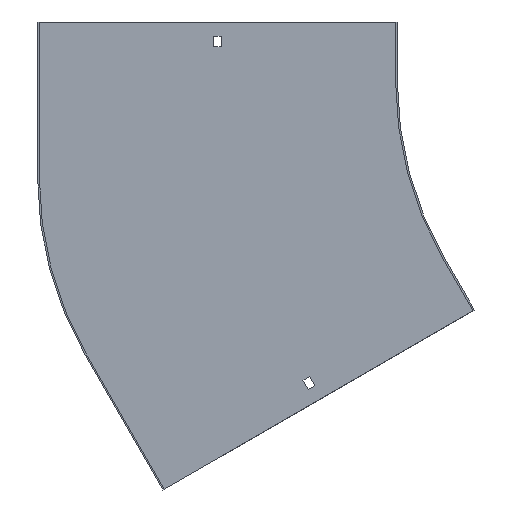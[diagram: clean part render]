
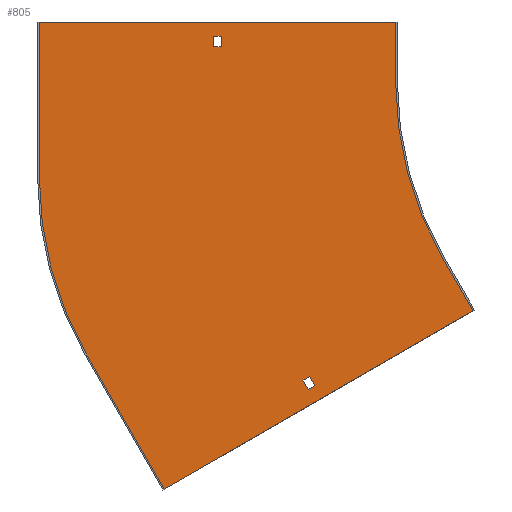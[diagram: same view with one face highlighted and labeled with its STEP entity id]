
A CAD part, front view. The second image highlights one B-rep face of the part: STEP entity #805.
In plain terms, the highlighted planar face has unit normal (0, -1, 0).
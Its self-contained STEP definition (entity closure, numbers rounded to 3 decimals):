
#1 = ORIENTED_EDGE ( 'NONE', *, *, #244, .F. ) ;
#2 = VERTEX_POINT ( 'NONE', #278 ) ;
#7 = LINE ( 'NONE', #273, #468 ) ;
#9 = DIRECTION ( 'NONE',  ( 0.5, 0., -0.866 ) ) ;
#14 = ORIENTED_EDGE ( 'NONE', *, *, #239, .T. ) ;
#19 = ORIENTED_EDGE ( 'NONE', *, *, #394, .F. ) ;
#23 = DIRECTION ( 'NONE',  ( 0., 0., -1. ) ) ;
#25 = DIRECTION ( 'NONE',  ( 0., 0., -1. ) ) ;
#32 = CIRCLE ( 'NONE', #516, 300. ) ;
#37 = CARTESIAN_POINT ( 'NONE',  ( -600., -1.5, -80.385 ) ) ;
#39 = DIRECTION ( 'NONE',  ( 0., 0., -1. ) ) ;
#45 = EDGE_CURVE ( 'NONE', #469, #558, #497, .T. ) ;
#54 = ORIENTED_EDGE ( 'NONE', *, *, #327, .T. ) ;
#59 = CARTESIAN_POINT ( 'NONE',  ( -446.75, -1.5, 29. ) ) ;
#62 = ORIENTED_EDGE ( 'NONE', *, *, #263, .F. ) ;
#68 = ORIENTED_EDGE ( 'NONE', *, *, #727, .F. ) ;
#79 = EDGE_LOOP ( 'NONE', ( #407, #62, #19, #450 ) ) ;
#80 = VERTEX_POINT ( 'NONE', #478 ) ;
#86 = VECTOR ( 'NONE', #88, 1000. ) ;
#87 = VERTEX_POINT ( 'NONE', #753 ) ;
#88 = DIRECTION ( 'NONE',  ( 1., 0., 0. ) ) ;
#90 = CARTESIAN_POINT ( 'NONE',  ( -233.509, -1.5, -192.551 ) ) ;
#95 = VERTEX_POINT ( 'NONE', #634 ) ;
#98 = DIRECTION ( 'NONE',  ( -0.5, 0., 0.866 ) ) ;
#106 = PLANE ( 'NONE',  #665 ) ;
#144 = LINE ( 'NONE', #342, #542 ) ;
#149 = LINE ( 'NONE', #354, #501 ) ;
#160 = DIRECTION ( 'NONE',  ( 0.866, 0., 0.5 ) ) ;
#165 = DIRECTION ( 'NONE',  ( 1., 0., 0. ) ) ;
#166 = DIRECTION ( 'NONE',  ( -0.866, 0., -0.5 ) ) ;
#170 = FACE_BOUND ( 'NONE', #79, .T. ) ;
#177 = DIRECTION ( 'NONE',  ( 0., 0., 1. ) ) ;
#189 = VERTEX_POINT ( 'NONE', #620 ) ;
#193 = VECTOR ( 'NONE', #160, 1000. ) ;
#200 = EDGE_LOOP ( 'NONE', ( #481, #14, #54, #718 ) ) ;
#211 = EDGE_CURVE ( 'NONE', #384, #602, #408, .T. ) ;
#214 = ORIENTED_EDGE ( 'NONE', *, *, #518, .F. ) ;
#225 = LINE ( 'NONE', #579, #331 ) ;
#239 = EDGE_CURVE ( 'NONE', #95, #663, #440, .T. ) ;
#240 = CARTESIAN_POINT ( 'NONE',  ( -494.615, -1.5, -343.301 ) ) ;
#244 = EDGE_CURVE ( 'NONE', #558, #525, #639, .T. ) ;
#246 = CARTESIAN_POINT ( 'NONE',  ( -378.026, -1.5, -251.74 ) ) ;
#248 = CARTESIAN_POINT ( 'NONE',  ( -600., -1.5, 50. ) ) ;
#250 = VECTOR ( 'NONE', #39, 1000. ) ;
#259 = VERTEX_POINT ( 'NONE', #491 ) ;
#263 = EDGE_CURVE ( 'NONE', #189, #259, #374, .T. ) ;
#264 = LINE ( 'NONE', #688, #86 ) ;
#268 = EDGE_CURVE ( 'NONE', #87, #670, #305, .T. ) ;
#273 = CARTESIAN_POINT ( 'NONE',  ( -392.526, -1.5, -226.625 ) ) ;
#278 = CARTESIAN_POINT ( 'NONE',  ( -453.25, -1.5, 38. ) ) ;
#281 = CARTESIAN_POINT ( 'NONE',  ( -259.808, -1.5, -150. ) ) ;
#290 = DIRECTION ( 'NONE',  ( 0.5, 0., -0.866 ) ) ;
#298 = CARTESIAN_POINT ( 'NONE',  ( -446.75, -1.5, 0. ) ) ;
#305 = LINE ( 'NONE', #696, #346 ) ;
#317 = ORIENTED_EDGE ( 'NONE', *, *, #716, .F. ) ;
#321 = VECTOR ( 'NONE', #510, 1000. ) ;
#322 = EDGE_CURVE ( 'NONE', #80, #648, #835, .T. ) ;
#327 = EDGE_CURVE ( 'NONE', #663, #476, #225, .T. ) ;
#331 = VECTOR ( 'NONE', #445, 1000. ) ;
#332 = CARTESIAN_POINT ( 'NONE',  ( 0., -1.5, 0. ) ) ;
#336 = DIRECTION ( 'NONE',  ( 0., -1., 0. ) ) ;
#340 = ORIENTED_EDGE ( 'NONE', *, *, #45, .F. ) ;
#342 = CARTESIAN_POINT ( 'NONE',  ( -259.808, -1.5, -150. ) ) ;
#346 = VECTOR ( 'NONE', #706, 1000. ) ;
#354 = CARTESIAN_POINT ( 'NONE',  ( -601.5, -1.5, 50. ) ) ;
#371 = EDGE_CURVE ( 'NONE', #259, #87, #852, .T. ) ;
#374 = LINE ( 'NONE', #381, #193 ) ;
#381 = CARTESIAN_POINT ( 'NONE',  ( 19., -1.5, -32.909 ) ) ;
#382 = AXIS2_PLACEMENT_3D ( 'NONE', #790, #532, #732 ) ;
#384 = VERTEX_POINT ( 'NONE', #403 ) ;
#394 = EDGE_CURVE ( 'NONE', #670, #189, #7, .T. ) ;
#399 = VECTOR ( 'NONE', #709, 1000. ) ;
#403 = CARTESIAN_POINT ( 'NONE',  ( -300., -1.5, 50. ) ) ;
#407 = ORIENTED_EDGE ( 'NONE', *, *, #371, .F. ) ;
#408 = LINE ( 'NONE', #676, #576 ) ;
#425 = CARTESIAN_POINT ( 'NONE',  ( -559.808, -1.5, -230.385 ) ) ;
#439 = CARTESIAN_POINT ( 'NONE',  ( 0., -1.5, 0. ) ) ;
#440 = LINE ( 'NONE', #298, #250 ) ;
#445 = DIRECTION ( 'NONE',  ( -1., 0., 0. ) ) ;
#450 = ORIENTED_EDGE ( 'NONE', *, *, #268, .F. ) ;
#468 = VECTOR ( 'NONE', #290, 1000. ) ;
#469 = VERTEX_POINT ( 'NONE', #742 ) ;
#476 = VERTEX_POINT ( 'NONE', #529 ) ;
#478 = CARTESIAN_POINT ( 'NONE',  ( -600., -1.5, -80.385 ) ) ;
#479 = EDGE_CURVE ( 'NONE', #525, #80, #749, .T. ) ;
#481 = ORIENTED_EDGE ( 'NONE', *, *, #766, .T. ) ;
#491 = CARTESIAN_POINT ( 'NONE',  ( -367.897, -1.5, -256.284 ) ) ;
#497 = LINE ( 'NONE', #90, #595 ) ;
#501 = VECTOR ( 'NONE', #165, 1000. ) ;
#502 = FACE_BOUND ( 'NONE', #200, .T. ) ;
#510 = DIRECTION ( 'NONE',  ( 0., 0., 1. ) ) ;
#516 = AXIS2_PLACEMENT_3D ( 'NONE', #332, #336, #803 ) ;
#518 = EDGE_CURVE ( 'NONE', #648, #384, #149, .T. ) ;
#525 = VERTEX_POINT ( 'NONE', #425 ) ;
#529 = CARTESIAN_POINT ( 'NONE',  ( -453.25, -1.5, 29. ) ) ;
#532 = DIRECTION ( 'NONE',  ( 0., 1., 0. ) ) ;
#542 = VECTOR ( 'NONE', #9, 1000. ) ;
#558 = VERTEX_POINT ( 'NONE', #649 ) ;
#570 = FACE_OUTER_BOUND ( 'NONE', #813, .T. ) ;
#576 = VECTOR ( 'NONE', #23, 1000. ) ;
#579 = CARTESIAN_POINT ( 'NONE',  ( 0., -1.5, 29. ) ) ;
#581 = CARTESIAN_POINT ( 'NONE',  ( -453.25, -1.5, 0. ) ) ;
#595 = VECTOR ( 'NONE', #166, 1000. ) ;
#602 = VERTEX_POINT ( 'NONE', #843 ) ;
#612 = EDGE_CURVE ( 'NONE', #476, #2, #653, .T. ) ;
#613 = VECTOR ( 'NONE', #98, 1000. ) ;
#620 = CARTESIAN_POINT ( 'NONE',  ( -373.526, -1.5, -259.534 ) ) ;
#631 = ORIENTED_EDGE ( 'NONE', *, *, #322, .F. ) ;
#634 = CARTESIAN_POINT ( 'NONE',  ( -446.75, -1.5, 38. ) ) ;
#639 = LINE ( 'NONE', #240, #399 ) ;
#640 = VECTOR ( 'NONE', #177, 1000. ) ;
#648 = VERTEX_POINT ( 'NONE', #248 ) ;
#649 = CARTESIAN_POINT ( 'NONE',  ( -494.615, -1.5, -343.301 ) ) ;
#653 = LINE ( 'NONE', #581, #321 ) ;
#663 = VERTEX_POINT ( 'NONE', #59 ) ;
#665 = AXIS2_PLACEMENT_3D ( 'NONE', #439, #834, #25 ) ;
#670 = VERTEX_POINT ( 'NONE', #246 ) ;
#676 = CARTESIAN_POINT ( 'NONE',  ( -300., -1.5, 50. ) ) ;
#688 = CARTESIAN_POINT ( 'NONE',  ( 0., -1.5, 38. ) ) ;
#696 = CARTESIAN_POINT ( 'NONE',  ( 14.5, -1.5, -25.115 ) ) ;
#706 = DIRECTION ( 'NONE',  ( -0.866, 0., -0.5 ) ) ;
#709 = DIRECTION ( 'NONE',  ( -0.5, 0., 0.866 ) ) ;
#716 = EDGE_CURVE ( 'NONE', #737, #469, #144, .T. ) ;
#718 = ORIENTED_EDGE ( 'NONE', *, *, #612, .T. ) ;
#727 = EDGE_CURVE ( 'NONE', #602, #737, #32, .T. ) ;
#732 = DIRECTION ( 'NONE',  ( 0., 0., -1. ) ) ;
#737 = VERTEX_POINT ( 'NONE', #281 ) ;
#739 = CARTESIAN_POINT ( 'NONE',  ( -386.897, -1.5, -223.375 ) ) ;
#742 = CARTESIAN_POINT ( 'NONE',  ( -234.808, -1.5, -193.301 ) ) ;
#749 = CIRCLE ( 'NONE', #382, 300. ) ;
#753 = CARTESIAN_POINT ( 'NONE',  ( -372.397, -1.5, -248.49 ) ) ;
#762 = ORIENTED_EDGE ( 'NONE', *, *, #211, .F. ) ;
#766 = EDGE_CURVE ( 'NONE', #2, #95, #264, .T. ) ;
#790 = CARTESIAN_POINT ( 'NONE',  ( -300., -1.5, -80.385 ) ) ;
#803 = DIRECTION ( 'NONE',  ( 0., 0., -1. ) ) ;
#805 = ADVANCED_FACE ( 'NONE', ( #170, #570, #502 ), #106, .T. ) ;
#813 = EDGE_LOOP ( 'NONE', ( #214, #631, #822, #1, #340, #317, #68, #762 ) ) ;
#822 = ORIENTED_EDGE ( 'NONE', *, *, #479, .F. ) ;
#834 = DIRECTION ( 'NONE',  ( 0., -1., 0. ) ) ;
#835 = LINE ( 'NONE', #37, #640 ) ;
#843 = CARTESIAN_POINT ( 'NONE',  ( -300., -1.5, 0. ) ) ;
#852 = LINE ( 'NONE', #739, #613 ) ;
